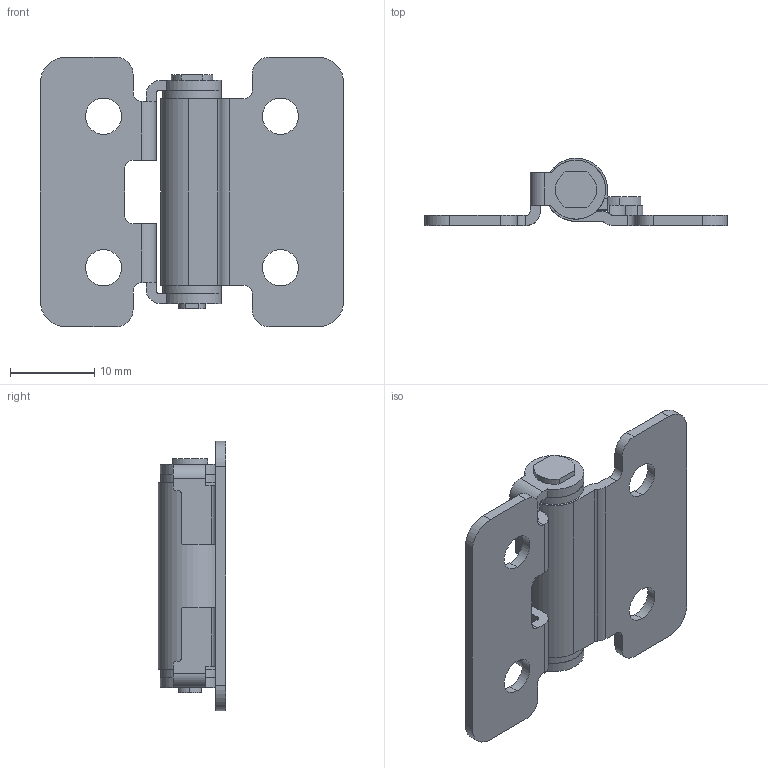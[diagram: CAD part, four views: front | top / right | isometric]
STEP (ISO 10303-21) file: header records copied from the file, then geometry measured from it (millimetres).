
FILE_DESCRIPTION (( 'STEP AP203' ), '1' );
FILE_NAME ('XG11-015-3.STEP', '2023-12-04T07:15:24', ( '' ), ( '' ), 'SwSTEP 2.0', 'SolidWorks 2020', '' );
FILE_SCHEMA (( 'CONFIG_CONTROL_DESIGN' ));
Length unit declared in the file: millimetre
Products named in the file (3): _HHPT3_b; _HHPT3_p; XG11-015-3
Assembly tree (2 placements, depth 2):
  XG11-015-3
    _HHPT3_b
    _HHPT3_p
Bounding box: 36 x 8 x 32 mm (x, y, z)
Volume: 2266.3 mm3; surface area: 3514.7 mm2
Topology: 2 solids, 2 shells, 146 faces, 437 edges, 288 vertices
Faces by surface type: plane 77, cylinder 69
Entity records: 5316 total; most frequent: CARTESIAN_POINT 898, DIRECTION 889, ORIENTED_EDGE 874, EDGE_CURVE 437, AXIS2_PLACEMENT_3D 307, VERTEX_POINT 288, LINE 275, VECTOR 275
